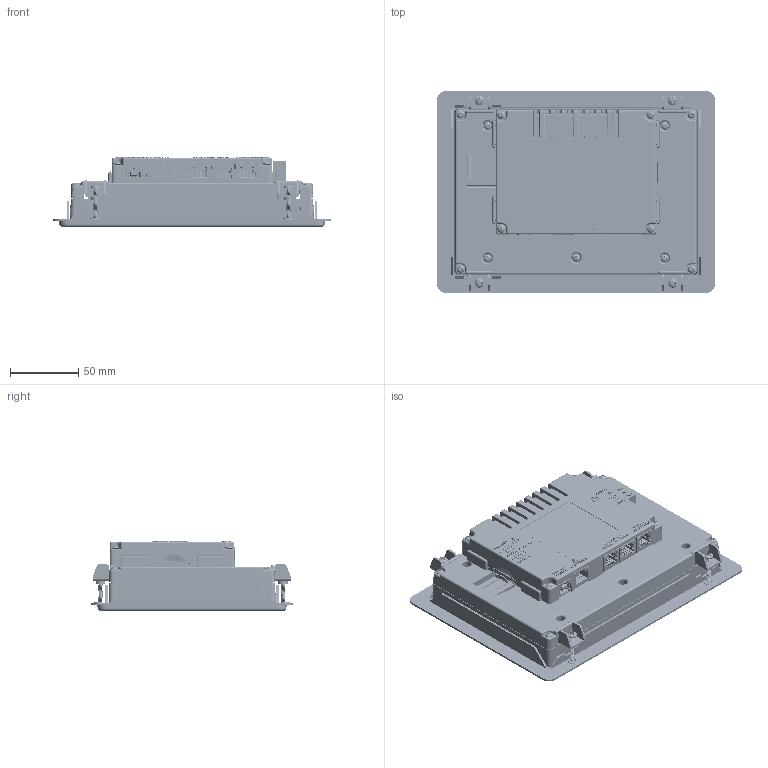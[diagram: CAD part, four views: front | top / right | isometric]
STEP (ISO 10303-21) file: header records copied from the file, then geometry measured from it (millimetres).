
FILE_DESCRIPTION(/* description */ ('Unknown'),/* implementation_level */ '2;1');
FILE_NAME(/* name */ 'CR100007',/* time_stamp */ '2017-12-21T06:33:15-05:00',/* author */ ('Unknown'),/* organization */ ('Unknown'),/* preprocessor_version */ 'ST-DEVELOPER v16.7',/* originating_system */ 'DEX',/* authorisation */ $);
FILE_SCHEMA (('AUTOMOTIVE_DESIGN {1 0 10303 214 3 1 1}'));
Products named in the file (106): C7in_V41; C7in_V41_0; C7in_V41_1; C7in_V41_2; C7in_V41_3; COMPONENTS_5013311007_5013311007;5013311007; COMPONENTS_5013311007_5013311007;5013311007_0; C7in_V41_4; C7in_V41_5; C7in_V41_6; C7in_V41_7; C7in_V41_8; C7in_V41_9; C7in_V41_10; C7in_V41_11; C7in_V41_12; C7in_V41_13; C7in_V41_14; C7in_V41_15; C7in_V41_16; C7in_V41_17; C7in_V41_18; C7in_V41_19; C7in_V41_20; C7in_V41_21; C7in_V41_22; C7in_V41_23; C7in_V41_24; C7in_V41_25; C7in_V41_26; C7in_V41_27; C7in_V41_28; C7in_V41_29; C7in_V41_30; C7in_V41_31; C7in_V41_32; C7in_V41_33; C7in_V41_34; 395340003; C7in_V41_35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
Assembly tree (105 placements, depth 2):
  C7in_V41
    C7in_V41
    C7in_V41_0
    C7in_V41_1
    C7in_V41_2
    C7in_V41_3
    COMPONENTS_5013311007_5013311007;5013311007
    COMPONENTS_5013311007_5013311007;5013311007_0
    C7in_V41_4
    C7in_V41_5
    C7in_V41_6
    C7in_V41_7
    C7in_V41_8
    C7in_V41_9
    C7in_V41_10
    C7in_V41_11
    C7in_V41_12
    C7in_V41_13
    C7in_V41_14
    C7in_V41_15
    C7in_V41_16
    C7in_V41_17
    C7in_V41_18
    C7in_V41_19
    C7in_V41_20
    C7in_V41_21
    C7in_V41_22
    C7in_V41_23
    C7in_V41_24
    C7in_V41_25
    C7in_V41_26
    C7in_V41_27
    C7in_V41_28
    C7in_V41_29
    C7in_V41_30
    C7in_V41_31
    C7in_V41_32
    C7in_V41_33
    C7in_V41_34
    395340003
    C7in_V41_35
    C7in_V41_36
    C7in_V41_37
    C7in_V41_38
    C7in_V41_40
    C7in_V41_41
    C7in_V41_42
    C7in_V41_43
    C7in_V41_44
    C7in_V41_45
    C7in_V41_46
    C7in_V41_47
    C7in_V41_48
    C7in_V41_49
    C7in_V41_50
    C7in_V41_51
    C7in_V41_52
    C7in_V41_53
    C7in_V41_54
    C7in_V41_55
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Bounding box: 203.2 x 147.32 x 51.31 mm (x, y, z)
Volume: 459125.4 mm3; surface area: 472697 mm2
Topology: 105 solids, 111 shells, 14576 faces, 40502 edges, 26514 vertices
Faces by surface type: plane 10119, cylinder 3261, cone 450, bspline 450, torus 213, sphere 83
Full cylindrical faces by diameter (mm): 0.46 x2, 0.5 x5, 0.6 x2, 0.635 x2, 0.8 x1, 0.899 x2, 0.9 x1, 1.2 x2, 1.359 x2, 1.524 x3, 1.905 x1, 2 x1, 2.007 x3, 2.1 x1, 2.5 x1, 2.54 x3, 2.794 x3, 2.921 x3, 3 x2, 3.048 x6, 3.1 x2, 3.175 x6, 3.226 x8, 3.251 x2, 3.505 x4, 4.216 x6, 5.563 x8, 7.112 x4, 9 x1, 9.754 x1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
Entity records: 520361 total; most frequent: CARTESIAN_POINT 152312, ORIENTED_EDGE 80416, DIRECTION 70487, EDGE_CURVE 40208, LINE 30373, VECTOR 30373, VERTEX_POINT 26440, AXIS2_PLACEMENT_3D 20057
